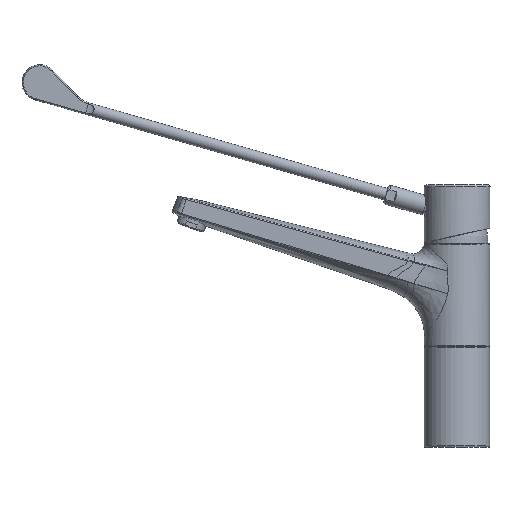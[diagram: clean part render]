
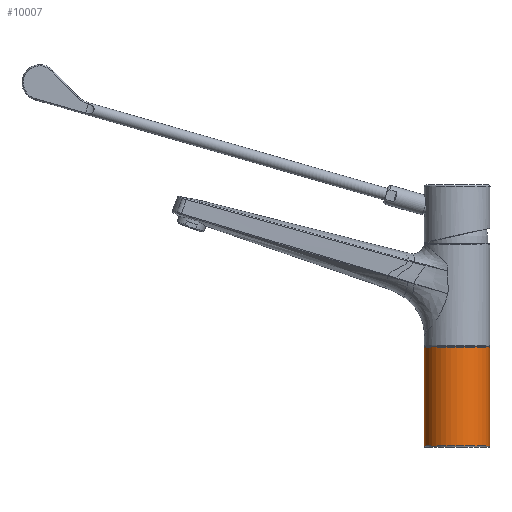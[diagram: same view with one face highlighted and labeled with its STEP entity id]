
A CAD part, top view. The second image highlights one B-rep face of the part: STEP entity #10007.
In plain terms, the highlighted cylindrical face has radius 27.5 mm (diameter 55 mm), a partial arc.
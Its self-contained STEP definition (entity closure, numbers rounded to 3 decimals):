
#2376=CARTESIAN_POINT('',(0.,24.2,0.));
#2377=DIRECTION('',(0.,1.,0.));
#2378=DIRECTION('',(-1.,0.,0.));
#2379=AXIS2_PLACEMENT_3D('',#2376,#2377,#2378);
#2401=DIRECTION('',(0.,1.,0.));
#2402=VECTOR('',#2401,83.);
#2403=CARTESIAN_POINT('',(27.5,-58.8,0.));
#2404=LINE('',#2403,#2402);
#2405=DIRECTION('',(0.,1.,0.));
#2406=VECTOR('',#2405,83.);
#2407=CARTESIAN_POINT('',(-27.5,-58.8,0.));
#2408=LINE('',#2407,#2406);
#2414=CARTESIAN_POINT('',(0.,-58.8,0.));
#2415=DIRECTION('',(0.,-1.,0.));
#2416=DIRECTION('',(1.,0.,0.));
#2417=AXIS2_PLACEMENT_3D('',#2414,#2415,#2416);
#3562=CARTESIAN_POINT('',(27.5,-58.8,0.));
#3563=CARTESIAN_POINT('',(-27.5,-58.8,0.));
#3564=VERTEX_POINT('',#3562);
#3565=VERTEX_POINT('',#3563);
#3582=CARTESIAN_POINT('',(-27.5,24.2,0.));
#3583=CARTESIAN_POINT('',(27.5,24.2,0.));
#3584=VERTEX_POINT('',#3582);
#3585=VERTEX_POINT('',#3583);
#9995=CARTESIAN_POINT('',(0.,-59.8,0.));
#9996=DIRECTION('',(0.,1.,0.));
#9997=DIRECTION('',(1.,0.,0.));
#9998=AXIS2_PLACEMENT_3D('',#9995,#9996,#9997);
#9999=CYLINDRICAL_SURFACE('',#9998,27.5);
#10000=ORIENTED_EDGE('',*,*,#9960,.T.);
#10001=ORIENTED_EDGE('',*,*,#9990,.F.);
#10003=ORIENTED_EDGE('',*,*,#10002,.T.);
#10004=ORIENTED_EDGE('',*,*,#9986,.T.);
#10005=EDGE_LOOP('',(#10000,#10001,#10003,#10004));
#10006=FACE_OUTER_BOUND('',#10005,.F.);
#10007=ADVANCED_FACE('',(#10006),#9999,.T.);
#2380=CIRCLE('',#2379,27.5);
#2418=CIRCLE('',#2417,27.5);
#9960=EDGE_CURVE('',#3584,#3585,#2380,.T.);
#9986=EDGE_CURVE('',#3565,#3584,#2408,.T.);
#9990=EDGE_CURVE('',#3564,#3585,#2404,.T.);
#10002=EDGE_CURVE('',#3564,#3565,#2418,.T.);
